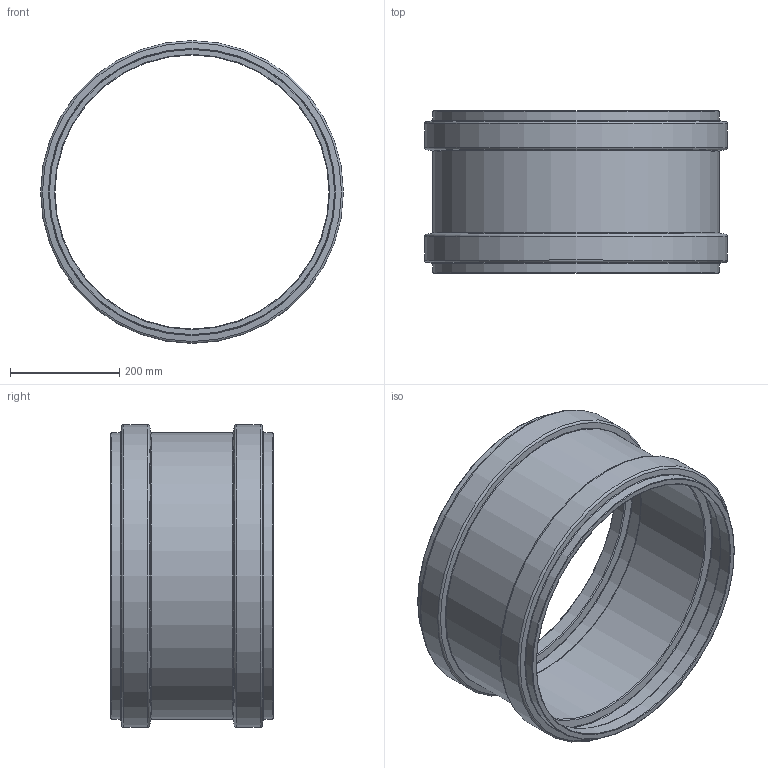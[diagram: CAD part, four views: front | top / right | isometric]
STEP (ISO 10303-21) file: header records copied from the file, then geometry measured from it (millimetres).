
FILE_DESCRIPTION(/* description */ (''),/* implementation_level */ '2;1');
FILE_NAME(/* name */ '227500z.stp',/* time_stamp */ '2026-08-24T11:59:57+02:00',/* author */ ('corinna'),/* organization */ (''),/* preprocessor_version */ 'ST-DEVELOPER v20',/* originating_system */ 'Autodesk Inventor 2024',/* authorisation */ '');
FILE_SCHEMA (('AUTOMOTIVE_DESIGN { 1 0 10303 214 3 1 1 }'));
Length unit declared in the file: millimetre
Products named in the file (1): 227500z
Bounding box: 554 x 297 x 554 mm (x, y, z)
Volume: 6014223.9 mm3; surface area: 1175438.2 mm2
Topology: 1 solids, 1 shells, 40 faces, 114 edges, 76 vertices
Faces by surface type: torus 20, cylinder 10, cone 8, plane 2
Full cylindrical faces by diameter (mm): 501.5 x3, 523.7 x3, 534.4 x2, 554 x2
Entity records: 1421 total; most frequent: DIRECTION 292, CARTESIAN_POINT 231, ORIENTED_EDGE 228, AXIS2_PLACEMENT_3D 137, EDGE_CURVE 114, CIRCLE 96, VERTEX_POINT 76, EDGE_LOOP 42
